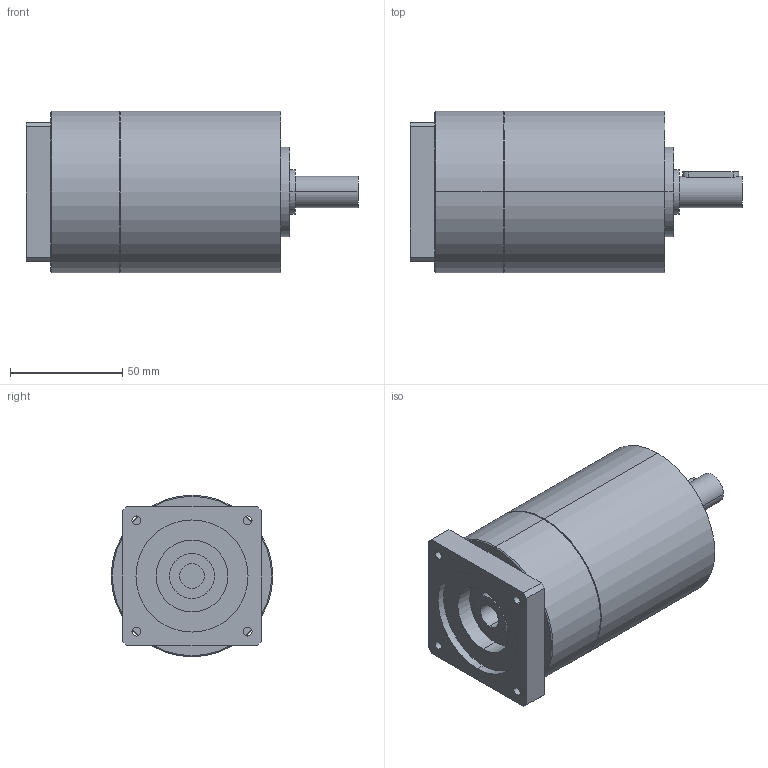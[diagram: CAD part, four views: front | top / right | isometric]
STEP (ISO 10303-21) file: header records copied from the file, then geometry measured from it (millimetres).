
FILE_DESCRIPTION(('CoCreate Modeling STEP Export'),'2;1');
FILE_NAME('GPT75_ig-9-12-16-20-25-28-35-40-50-70-100_14_B14T_11_P31.stp','2014-08-27T13:08:49',(''),(''),'CoCreate Modeling STEP processor for AP214 (Solid Model)','CoCreate Modeling 16.00C 25-Feb-2009 (C) Parametric Technology GmbH','');
FILE_SCHEMA(('AUTOMOTIVE_DESIGN { 1 0 10303 214 1 1 1 1 }'));
Length unit declared in the file: millimetre
Products named in the file (2): GPT75_ig-9-12-16-20-25-28-35-40-50-70-100_14_B14T_11_P31
Assembly tree (1 placements, depth 2):
  GPT75_ig-9-12-16-20-25-28-35-40-50-70-100_14_B14T_11_P31
    GPT75_ig-9-12-16-20-25-28-35-40-50-70-100_14_B14T_11_P31
Bounding box: 148 x 72 x 72 mm (x, y, z)
Volume: 453436.3 mm3; surface area: 40680.7 mm2
Topology: 1 solids, 1 shells, 80 faces, 198 edges, 129 vertices
Faces by surface type: cylinder 42, plane 34, cone 4
Entity records: 2353 total; most frequent: CARTESIAN_POINT 689, ORIENTED_EDGE 396, DIRECTION 276, EDGE_CURVE 198, VERTEX_POINT 129, AXIS2_PLACEMENT_3D 104, EDGE_LOOP 97, FACE_OUTER_BOUND 80
